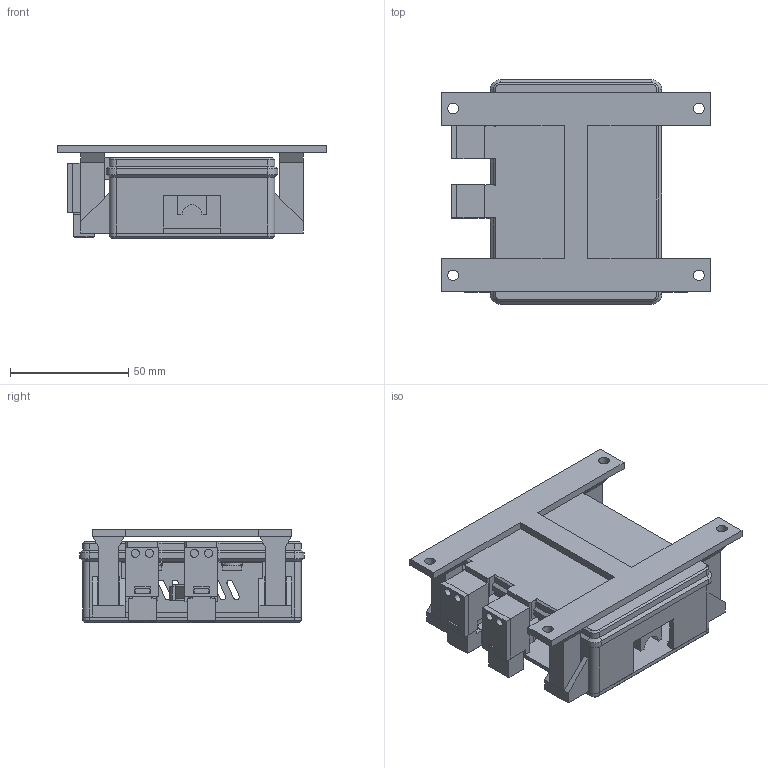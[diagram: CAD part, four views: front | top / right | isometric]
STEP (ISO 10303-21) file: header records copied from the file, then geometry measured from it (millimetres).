
FILE_DESCRIPTION(('Open CASCADE Model'),'2;1');
FILE_NAME('Open CASCADE Shape Model','2026-10-19T19:27:16',('Author'),( 'Open CASCADE'),'Open CASCADE STEP processor 7.9','build123d', 'Unknown');
FILE_SCHEMA(('AUTOMOTIVE_DESIGN { 1 0 10303 214 1 1 1 1 }'));
Length unit declared in the file: millimetre
Products named in the file (16): COMPOUND
Assembly tree (15 placements, depth 2):
  COMPOUND
    COMPOUND
    COMPOUND
    COMPOUND
    COMPOUND
    COMPOUND
    COMPOUND
    COMPOUND
    COMPOUND
    COMPOUND
    COMPOUND
    COMPOUND
    COMPOUND
    COMPOUND
    COMPOUND
    COMPOUND
Bounding box: 114.1 x 95 x 39.6 mm (x, y, z)
Volume: 93169.5 mm3; surface area: 73929.7 mm2
Topology: 15 solids, 15 shells, 663 faces, 1702 edges, 1109 vertices
Faces by surface type: plane 524, cylinder 123, cone 16
Full cylindrical faces by diameter (mm): 3.4 x22, 4 x18, 4.5 x4
Entity records: 41769 total; most frequent: CARTESIAN_POINT 8472, DIRECTION 5663, LINE 3642, VECTOR 3642, ORIENTED_EDGE 3404, PCURVE 3404, DEFINITIONAL_REPRESENTATION 3404, EDGE_CURVE 1702
